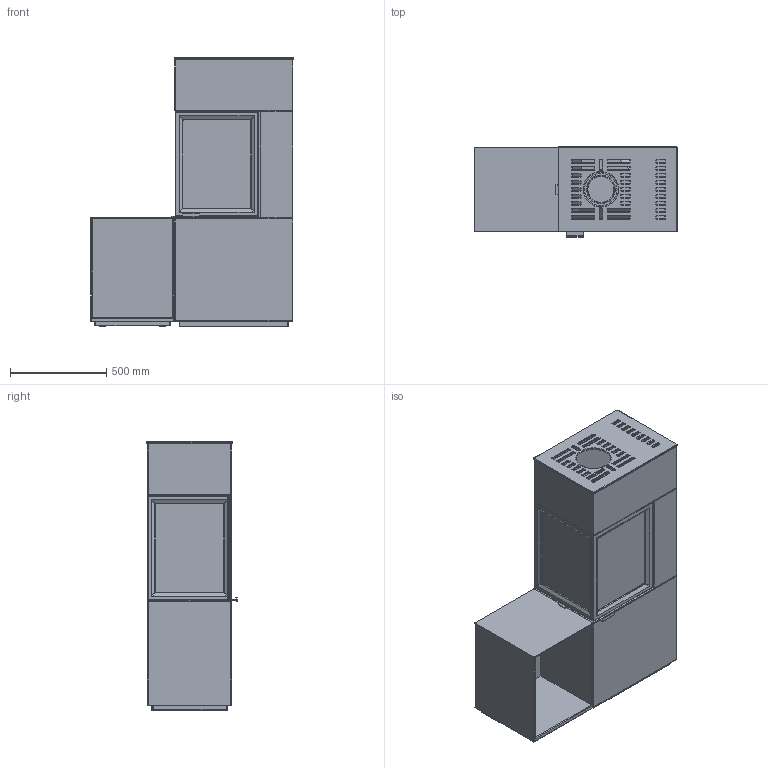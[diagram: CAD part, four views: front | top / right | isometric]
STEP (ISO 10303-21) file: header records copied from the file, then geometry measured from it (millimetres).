
FILE_DESCRIPTION(/* description */ ('Unknown'),/* implementation_level */ '2;1');
FILE_NAME(/* name */ 'C420L Interior model',/* time_stamp */ '2026-08-14T11:38:55+02:00',/* author */ ('Unknown'),/* organization */ ('Unknown'),/* preprocessor_version */ 'ST-DEVELOPER v20',/* originating_system */ 'Solid Edge',/* authorisation */ 'Unknown');
FILE_SCHEMA (('AUTOMOTIVE_DESIGN {1 0 10303 214 3 1 1}'));
Products named in the file (7): DSN1152684; DSN1152293; DSN1152628; DSN1152548; DSN1152653; DSN1152722; DSN1152681
Assembly tree (7 placements, depth 2):
  DSN1152684
    DSN1152293
    DSN1152628
    DSN1152548  x2
    DSN1152653
    DSN1152722
    DSN1152681
Bounding box: 1049.82 x 467.59 x 1392 mm (x, y, z)
Volume: 198126155 mm3; surface area: 12511024.5 mm2
Topology: 9 solids, 9 shells, 2855 faces, 7309 edges, 4660 vertices
Faces by surface type: plane 1768, cylinder 532, bspline 375, torus 141, sphere 38, cone 1
Full cylindrical faces by diameter (mm): 8 x2, 25 x2, 30 x4, 32.5 x4, 38 x4, 98 x1, 135.222 x1, 140 x1, 145.23 x1, 168 x1, 173.696 x1, 180.583 x1
Entity records: 115054 total; most frequent: CARTESIAN_POINT 42477, ORIENTED_EDGE 14440, DIRECTION 10995, EDGE_CURVE 7220, VERTEX_POINT 4641, AXIS2_PLACEMENT_3D 3778, LINE 3439, VECTOR 3439
